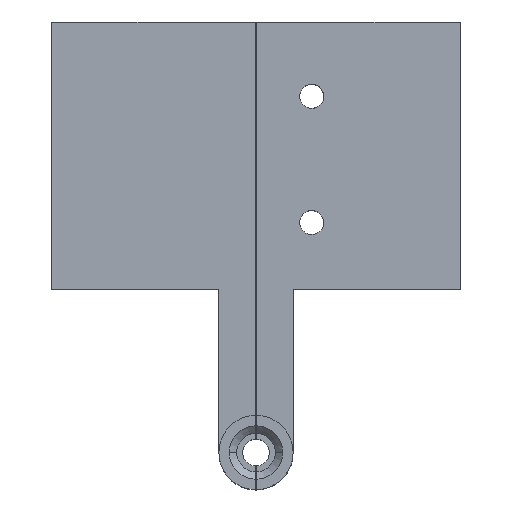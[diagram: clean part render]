
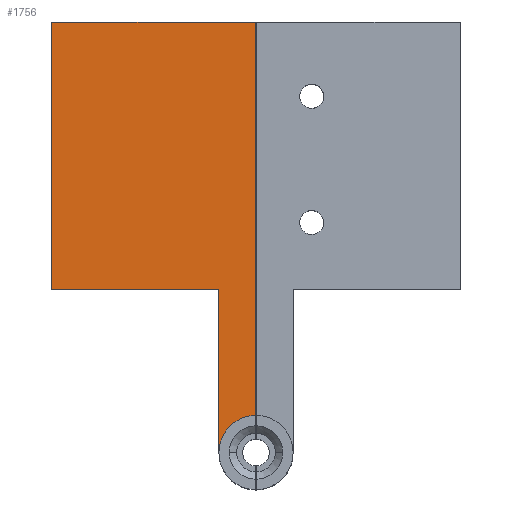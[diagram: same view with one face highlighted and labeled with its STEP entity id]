
A CAD part, top view. The second image highlights one B-rep face of the part: STEP entity #1756.
In plain terms, the highlighted planar face has unit normal (0, 0, 1).
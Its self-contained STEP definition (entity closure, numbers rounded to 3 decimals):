
#218=AXIS2_PLACEMENT_3D('Plane Axis2P3D',#215,#216,#217) ;
#1719=AXIS2_PLACEMENT_3D('Circle Axis2P3D',#1717,#1718,$) ;
#215=CARTESIAN_POINT('Axis2P3D Location',(0.,0.,13.)) ;
#1438=CARTESIAN_POINT('Vertex',(-0.1,58.,13.)) ;
#1441=CARTESIAN_POINT('Line Origine',(-0.1,31.499,13.)) ;
#1445=CARTESIAN_POINT('Vertex',(-0.1,4.999,13.)) ;
#1525=CARTESIAN_POINT('Line Origine',(-16.25,22.,13.)) ;
#1529=CARTESIAN_POINT('Vertex',(-27.5,22.,13.)) ;
#1531=CARTESIAN_POINT('Vertex',(-5.,22.,13.)) ;
#1560=CARTESIAN_POINT('Vertex',(-5.,0.,13.)) ;
#1563=CARTESIAN_POINT('Line Origine',(-5.,11.,13.)) ;
#1717=CARTESIAN_POINT('Axis2P3D Location',(0.,0.,13.)) ;
#1736=CARTESIAN_POINT('Line Origine',(-13.8,58.,13.)) ;
#1740=CARTESIAN_POINT('Vertex',(-27.5,58.,13.)) ;
#1743=CARTESIAN_POINT('Line Origine',(-27.5,40.,13.)) ;
#216=DIRECTION('Axis2P3D Direction',(0.,0.,1.)) ;
#217=DIRECTION('Axis2P3D XDirection',(1.,0.,0.)) ;
#1442=DIRECTION('Vector Direction',(0.,-1.,0.)) ;
#1526=DIRECTION('Vector Direction',(-1.,0.,0.)) ;
#1564=DIRECTION('Vector Direction',(0.,-1.,0.)) ;
#1718=DIRECTION('Axis2P3D Direction',(0.,0.,1.)) ;
#1737=DIRECTION('Vector Direction',(-1.,0.,0.)) ;
#1744=DIRECTION('Vector Direction',(0.,-1.,0.)) ;
#1443=VECTOR('Line Direction',#1442,1.) ;
#1527=VECTOR('Line Direction',#1526,1.) ;
#1565=VECTOR('Line Direction',#1564,1.) ;
#1738=VECTOR('Line Direction',#1737,1.) ;
#1745=VECTOR('Line Direction',#1744,1.) ;
#1749=ORIENTED_EDGE('',*,*,#1742,.T.) ;
#1750=ORIENTED_EDGE('',*,*,#1747,.T.) ;
#1751=ORIENTED_EDGE('',*,*,#1533,.T.) ;
#1752=ORIENTED_EDGE('',*,*,#1567,.T.) ;
#1753=ORIENTED_EDGE('',*,*,#1721,.F.) ;
#1754=ORIENTED_EDGE('',*,*,#1447,.F.) ;
#1756=ADVANCED_FACE('\X2\96F64EF651E04F554F53\X0\.1',(#1755),#219,.T.) ;
#1720=CIRCLE('generated circle',#1719,5.) ;
#1447=EDGE_CURVE('',#1439,#1446,#1444,.T.) ;
#1533=EDGE_CURVE('',#1530,#1532,#1528,.F.) ;
#1567=EDGE_CURVE('',#1532,#1561,#1566,.T.) ;
#1721=EDGE_CURVE('',#1446,#1561,#1720,.T.) ;
#1742=EDGE_CURVE('',#1439,#1741,#1739,.T.) ;
#1747=EDGE_CURVE('',#1741,#1530,#1746,.T.) ;
#1748=EDGE_LOOP('',(#1749,#1750,#1751,#1752,#1753,#1754)) ;
#1755=FACE_OUTER_BOUND('',#1748,.T.) ;
#1444=LINE('Line',#1441,#1443) ;
#1528=LINE('Line',#1525,#1527) ;
#1566=LINE('Line',#1563,#1565) ;
#1739=LINE('Line',#1736,#1738) ;
#1746=LINE('Line',#1743,#1745) ;
#219=PLANE('Plane',#218) ;
#1439=VERTEX_POINT('',#1438) ;
#1446=VERTEX_POINT('',#1445) ;
#1530=VERTEX_POINT('',#1529) ;
#1532=VERTEX_POINT('',#1531) ;
#1561=VERTEX_POINT('',#1560) ;
#1741=VERTEX_POINT('',#1740) ;
